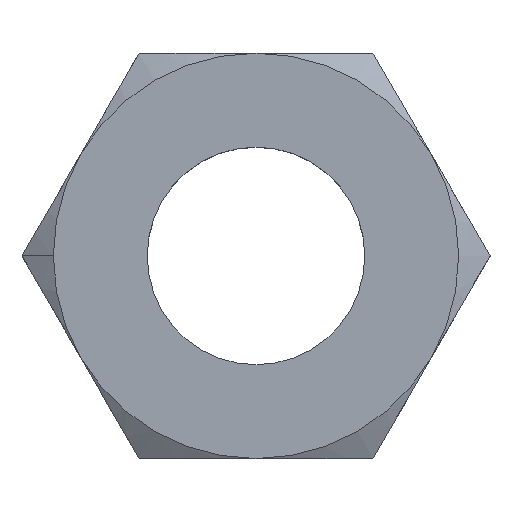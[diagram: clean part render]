
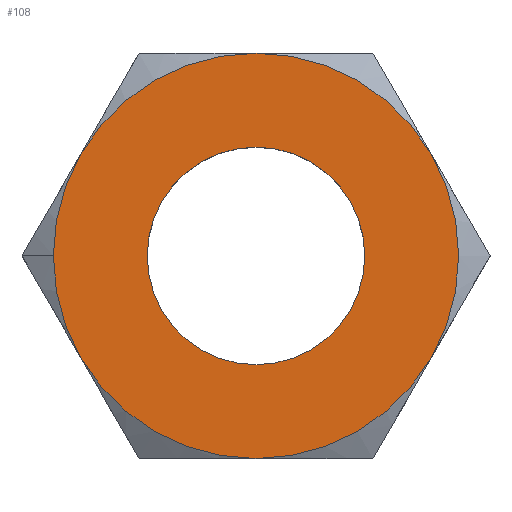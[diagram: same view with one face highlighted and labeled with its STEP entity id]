
A CAD part, top view. The second image highlights one B-rep face of the part: STEP entity #108.
In plain terms, the highlighted planar face has unit normal (0, 0, 1).
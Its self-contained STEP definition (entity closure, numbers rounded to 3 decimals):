
#7 = EDGE_CURVE ( 'NONE', #13, #9, #264, .T. ) ;
#9 = VERTEX_POINT ( 'NONE', #308 ) ;
#13 = VERTEX_POINT ( 'NONE', #346 ) ;
#17 = VERTEX_POINT ( 'NONE', #338 ) ;
#32 = EDGE_CURVE ( 'NONE', #33, #34, #244, .T. ) ;
#33 = VERTEX_POINT ( 'NONE', #240 ) ;
#34 = VERTEX_POINT ( 'NONE', #239 ) ;
#45 = VERTEX_POINT ( 'NONE', #320 ) ;
#57 = EDGE_LOOP ( 'NONE', ( #105, #107, #233, #232, #103, #111, #80 ) ) ;
#79 = EDGE_CURVE ( 'NONE', #34, #88, #786, .T. ) ;
#80 = ORIENTED_EDGE ( 'NONE', *, *, #110, .F. ) ;
#88 = VERTEX_POINT ( 'NONE', #752 ) ;
#102 = EDGE_CURVE ( 'NONE', #88, #197, #472, .T. ) ;
#103 = ORIENTED_EDGE ( 'NONE', *, *, #79, .F. ) ;
#104 = EDGE_LOOP ( 'NONE', ( #207, #209 ) ) ;
#105 = ORIENTED_EDGE ( 'NONE', *, *, #106, .F. ) ;
#106 = EDGE_CURVE ( 'NONE', #17, #45, #467, .T. ) ;
#107 = ORIENTED_EDGE ( 'NONE', *, *, #204, .F. ) ;
#108 = ADVANCED_FACE ( 'NONE', ( #488, #485 ), #486, .T. ) ;
#109 = EDGE_CURVE ( 'NONE', #197, #151, #482, .T. ) ;
#110 = EDGE_CURVE ( 'NONE', #45, #33, #505, .T. ) ;
#111 = ORIENTED_EDGE ( 'NONE', *, *, #32, .F. ) ;
#151 = VERTEX_POINT ( 'NONE', #553 ) ;
#197 = VERTEX_POINT ( 'NONE', #675 ) ;
#204 = EDGE_CURVE ( 'NONE', #151, #17, #665, .T. ) ;
#207 = ORIENTED_EDGE ( 'NONE', *, *, #208, .F. ) ;
#208 = EDGE_CURVE ( 'NONE', #9, #13, #614, .T. ) ;
#209 = ORIENTED_EDGE ( 'NONE', *, *, #7, .F. ) ;
#232 = ORIENTED_EDGE ( 'NONE', *, *, #102, .F. ) ;
#233 = ORIENTED_EDGE ( 'NONE', *, *, #109, .F. ) ;
#239 = CARTESIAN_POINT ( 'NONE',  ( -9.5, 0., 6. ) ) ;
#240 = CARTESIAN_POINT ( 'NONE',  ( -8.227, -4.75, 6. ) ) ;
#241 = DIRECTION ( 'NONE',  ( 1., 0., 0. ) ) ;
#242 = DIRECTION ( 'NONE',  ( 0., 0., -1. ) ) ;
#243 = AXIS2_PLACEMENT_3D ( 'NONE', #274, #242, #241 ) ;
#244 = CIRCLE ( 'NONE', #243, 9.5 ) ;
#256 = CARTESIAN_POINT ( 'NONE',  ( 0., 0., 6. ) ) ;
#259 = DIRECTION ( 'NONE',  ( 0., 0., 1. ) ) ;
#262 = AXIS2_PLACEMENT_3D ( 'NONE', #256, #259, #266 ) ;
#264 = CIRCLE ( 'NONE', #262, 5.1 ) ;
#266 = DIRECTION ( 'NONE',  ( 1., 0., 0. ) ) ;
#274 = CARTESIAN_POINT ( 'NONE',  ( 0., 0., 6. ) ) ;
#308 = CARTESIAN_POINT ( 'NONE',  ( 5.1, 0., 6. ) ) ;
#320 = CARTESIAN_POINT ( 'NONE',  ( 0., -9.5, 6. ) ) ;
#338 = CARTESIAN_POINT ( 'NONE',  ( 8.227, -4.75, 6. ) ) ;
#346 = CARTESIAN_POINT ( 'NONE',  ( -5.1, 0., 6. ) ) ;
#436 = DIRECTION ( 'NONE',  ( 0., 0., -1. ) ) ;
#448 = DIRECTION ( 'NONE',  ( 1., 0., 0. ) ) ;
#449 = CARTESIAN_POINT ( 'NONE',  ( 0., 0., 6. ) ) ;
#450 = AXIS2_PLACEMENT_3D ( 'NONE', #449, #436, #448 ) ;
#467 = CIRCLE ( 'NONE', #450, 9.5 ) ;
#468 = DIRECTION ( 'NONE',  ( -1., 0., 0. ) ) ;
#469 = DIRECTION ( 'NONE',  ( 0., 0., -1. ) ) ;
#470 = CARTESIAN_POINT ( 'NONE',  ( 0., 0., 6. ) ) ;
#471 = AXIS2_PLACEMENT_3D ( 'NONE', #470, #469, #468 ) ;
#472 = CIRCLE ( 'NONE', #471, 9.5 ) ;
#477 = DIRECTION ( 'NONE',  ( 0., 0., 1. ) ) ;
#478 = DIRECTION ( 'NONE',  ( 1., 0., 0. ) ) ;
#479 = DIRECTION ( 'NONE',  ( 0., 0., -1. ) ) ;
#480 = CARTESIAN_POINT ( 'NONE',  ( 0., 0., 6. ) ) ;
#481 = AXIS2_PLACEMENT_3D ( 'NONE', #480, #479, #478 ) ;
#482 = CIRCLE ( 'NONE', #481, 9.5 ) ;
#483 = DIRECTION ( 'NONE',  ( 1., 0., 0. ) ) ;
#484 = AXIS2_PLACEMENT_3D ( 'NONE', #487, #477, #483 ) ;
#485 = FACE_BOUND ( 'NONE', #104, .T. ) ;
#486 = PLANE ( 'NONE',  #484 ) ;
#487 = CARTESIAN_POINT ( 'NONE',  ( 5.485, -9.5, 6. ) ) ;
#488 = FACE_OUTER_BOUND ( 'NONE', #57, .T. ) ;
#501 = DIRECTION ( 'NONE',  ( 1., 0., 0. ) ) ;
#502 = DIRECTION ( 'NONE',  ( 0., 0., -1. ) ) ;
#503 = CARTESIAN_POINT ( 'NONE',  ( 0., 0., 6. ) ) ;
#504 = AXIS2_PLACEMENT_3D ( 'NONE', #503, #502, #501 ) ;
#505 = CIRCLE ( 'NONE', #504, 9.5 ) ;
#553 = CARTESIAN_POINT ( 'NONE',  ( 8.227, 4.75, 6. ) ) ;
#611 = DIRECTION ( 'NONE',  ( 1., 0., 0. ) ) ;
#612 = DIRECTION ( 'NONE',  ( 0., 0., 1. ) ) ;
#613 = AXIS2_PLACEMENT_3D ( 'NONE', #659, #612, #611 ) ;
#614 = CIRCLE ( 'NONE', #613, 5.1 ) ;
#659 = CARTESIAN_POINT ( 'NONE',  ( 0., 0., 6. ) ) ;
#665 = CIRCLE ( 'NONE', #730, 9.5 ) ;
#675 = CARTESIAN_POINT ( 'NONE',  ( 0., 9.5, 6. ) ) ;
#710 = CARTESIAN_POINT ( 'NONE',  ( 0., 0., 6. ) ) ;
#728 = DIRECTION ( 'NONE',  ( 1., 0., 0. ) ) ;
#729 = DIRECTION ( 'NONE',  ( 0., 0., -1. ) ) ;
#730 = AXIS2_PLACEMENT_3D ( 'NONE', #710, #729, #728 ) ;
#752 = CARTESIAN_POINT ( 'NONE',  ( -8.227, 4.75, 6. ) ) ;
#782 = DIRECTION ( 'NONE',  ( 1., 0., 0. ) ) ;
#783 = DIRECTION ( 'NONE',  ( 0., 0., -1. ) ) ;
#784 = CARTESIAN_POINT ( 'NONE',  ( 0., 0., 6. ) ) ;
#785 = AXIS2_PLACEMENT_3D ( 'NONE', #784, #783, #782 ) ;
#786 = CIRCLE ( 'NONE', #785, 9.5 ) ;
